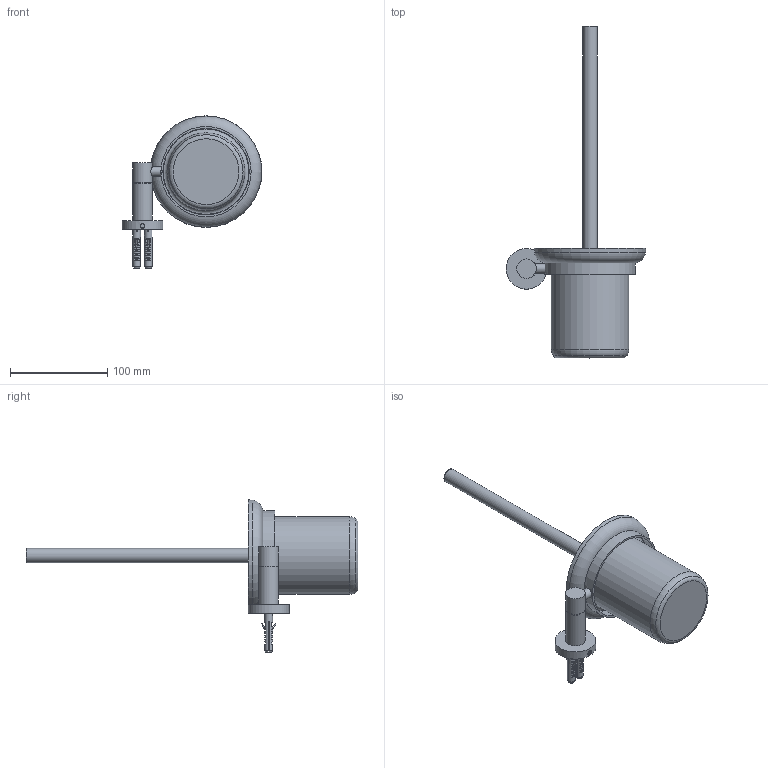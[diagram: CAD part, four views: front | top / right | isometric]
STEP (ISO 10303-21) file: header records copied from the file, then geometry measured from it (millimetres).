
FILE_DESCRIPTION(/* description */ (''),/* implementation_level */ '2;1');
FILE_NAME(/* name */ 'c:\worker\convert-fusion-r08\tmp\job-1\12\output\files\c81edaf9-2694-4c27-ad05-ef47389d9bc7\b1940e89-31d4-42f6-a725-f88925a66fa3.stp',/* time_stamp */ '2019-11-26T10:57:47+00:00',/* author */ (''),/* organization */ (''),/* preprocessor_version */ 'ST-DEVELOPER v18',/* originating_system */ 'Autodesk Translation Framework v8.12.0.6',/* authorisation */ '');
FILE_SCHEMA (('AUTOMOTIVE_DESIGN { 1 0 10303 214 3 1 1 }'));
Products named in the file (1): !MP60620
Bounding box: 144 x 342.1 x 157 mm (x, y, z)
Volume: 286800.7 mm3; surface area: 169039.9 mm2
Topology: 15 solids, 15 shells, 961 faces, 2693 edges, 1871 vertices
Faces by surface type: bspline 290, cylinder 217, plane 207, cone 201, sphere 28, torus 18
Full cylindrical faces by diameter (mm): 3.8 x62, 4.2 x6, 5 x93, 5.126 x2, 5.2 x2, 7 x2, 7.5 x2, 8 x2, 10 x1, 10.2 x1, 14.88 x1, 16 x1, 18.2 x1, 18.8 x1, 20 x2, 20.2 x1, 26.04 x1, 42 x1, 74 x1, 80 x1, 89 x1, 93 x1
Entity records: 145939 total; most frequent: CARTESIAN_POINT 124379, ORIENTED_EDGE 5378, DIRECTION 3269, EDGE_CURVE 2689, VERTEX_POINT 1872, AXIS2_PLACEMENT_3D 1250, EDGE_LOOP 1099, B_SPLINE_CURVE_WITH_KNOTS 961
